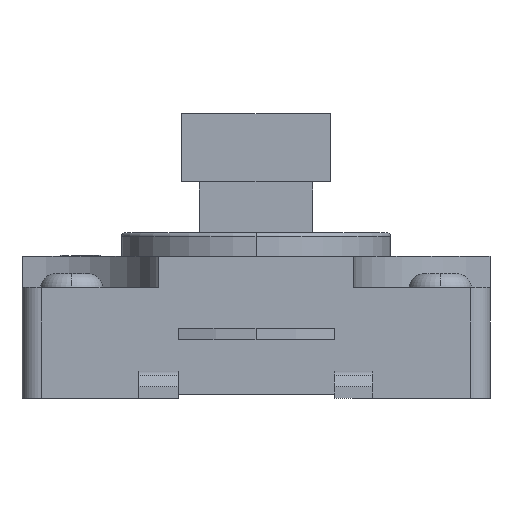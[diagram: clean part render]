
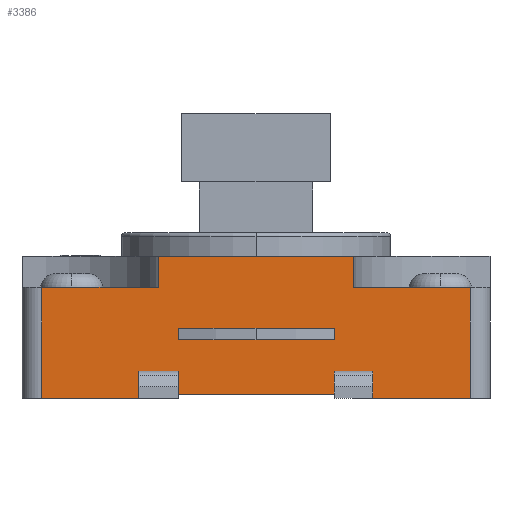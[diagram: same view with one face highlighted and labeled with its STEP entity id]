
A CAD part, left-side view. The second image highlights one B-rep face of the part: STEP entity #3386.
In plain terms, the highlighted planar face has unit normal (-1, 0, 0).
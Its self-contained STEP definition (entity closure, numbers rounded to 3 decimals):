
#75=DIRECTION('',(0.,1.,0.));
#76=VECTOR('',#75,5.);
#77=CARTESIAN_POINT('',(-75.489,35.27,1.95));
#78=LINE('',#77,#76);
#348=DIRECTION('',(0.,-1.,0.));
#349=VECTOR('',#348,3.);
#350=CARTESIAN_POINT('',(-75.489,35.27,1.15));
#351=LINE('',#350,#349);
#352=DIRECTION('',(0.,1.,0.));
#353=VECTOR('',#352,4.);
#354=CARTESIAN_POINT('',(-75.489,35.77,0.1));
#355=LINE('',#354,#353);
#356=DIRECTION('',(0.,-1.,0.));
#357=VECTOR('',#356,1.);
#358=CARTESIAN_POINT('',(-75.489,35.77,
-1.));
#359=LINE('',#358,#357);
#360=DIRECTION('',(0.,0.,1.));
#361=VECTOR('',#360,0.3);
#362=CARTESIAN_POINT('',(-75.489,35.77,-1.3));
#363=LINE('',#362,#361);
#364=DIRECTION('',(0.,-1.,0.));
#365=VECTOR('',#364,1.);
#366=CARTESIAN_POINT('',(-75.489,35.77,-1.3));
#367=LINE('',#366,#365);
#368=DIRECTION('',(0.,0.,-1.));
#369=VECTOR('',#368,0.3);
#370=CARTESIAN_POINT('',(-75.489,34.77,
-1.));
#371=LINE('',#370,#369);
#372=DIRECTION('',(0.,1.,0.));
#373=VECTOR('',#372,1.);
#374=CARTESIAN_POINT('',(-75.489,39.77,-1.3));
#375=LINE('',#374,#373);
#376=DIRECTION('',(0.,0.,-1.));
#377=VECTOR('',#376,0.3);
#378=CARTESIAN_POINT('',(-75.489,39.77,
-1.));
#379=LINE('',#378,#377);
#380=DIRECTION('',(0.,1.,0.));
#381=VECTOR('',#380,1.);
#382=CARTESIAN_POINT('',(-75.489,39.77,
-1.));
#383=LINE('',#382,#381);
#384=DIRECTION('',(0.,0.,-1.));
#385=VECTOR('',#384,0.3);
#386=CARTESIAN_POINT('',(-75.489,40.77,
-1.));
#387=LINE('',#386,#385);
#392=DIRECTION('',(0.,0.,1.));
#393=VECTOR('',#392,1.8);
#394=CARTESIAN_POINT('',(-75.489,32.27,-1.7));
#395=LINE('',#394,#393);
#396=DIRECTION('',(0.,0.,1.));
#397=VECTOR('',#396,1.05);
#398=CARTESIAN_POINT('',(-75.489,32.27,0.1));
#399=LINE('',#398,#397);
#580=DIRECTION('',(0.,1.,0.));
#581=VECTOR('',#580,4.);
#582=CARTESIAN_POINT('',(-75.489,35.77,-0.2));
#583=LINE('',#582,#581);
#611=DIRECTION('',(0.,0.,-1.));
#612=VECTOR('',#611,0.3);
#613=CARTESIAN_POINT('',(-75.489,35.77,0.1));
#614=LINE('',#613,#612);
#627=DIRECTION('',(0.,0.,1.));
#628=VECTOR('',#627,0.3);
#629=CARTESIAN_POINT('',(-75.489,39.77,-0.2));
#630=LINE('',#629,#628);
#708=DIRECTION('',(0.,0.,-1.));
#709=VECTOR('',#708,1.05);
#710=CARTESIAN_POINT('',(-75.489,43.27,1.15));
#711=LINE('',#710,#709);
#712=DIRECTION('',(0.,0.,-1.));
#713=VECTOR('',#712,1.8);
#714=CARTESIAN_POINT('',(-75.489,43.27,0.1));
#715=LINE('',#714,#713);
#733=DIRECTION('',(0.,-1.,0.));
#734=VECTOR('',#733,3.);
#735=CARTESIAN_POINT('',(-75.489,43.27,-1.7));
#736=LINE('',#735,#734);
#794=DIRECTION('',(0.,0.,1.));
#795=VECTOR('',#794,0.1);
#796=CARTESIAN_POINT('',(-75.489,40.27,-1.7));
#797=LINE('',#796,#795);
#810=DIRECTION('',(0.,-1.,0.));
#811=VECTOR('',#810,5.);
#812=CARTESIAN_POINT('',(-75.489,40.27,-1.6));
#813=LINE('',#812,#811);
#822=DIRECTION('',(0.,0.,-1.));
#823=VECTOR('',#822,0.1);
#824=CARTESIAN_POINT('',(-75.489,35.27,-1.6));
#825=LINE('',#824,#823);
#834=DIRECTION('',(0.,-1.,0.));
#835=VECTOR('',#834,3.);
#836=CARTESIAN_POINT('',(-75.489,35.27,-1.7));
#837=LINE('',#836,#835);
#901=DIRECTION('',(0.,1.,0.));
#902=VECTOR('',#901,3.);
#903=CARTESIAN_POINT('',(-75.489,40.27,1.15));
#904=LINE('',#903,#902);
#920=DIRECTION('',(0.,0.,-1.));
#921=VECTOR('',#920,0.8);
#922=CARTESIAN_POINT('',(-75.489,40.27,1.95));
#923=LINE('',#922,#921);
#1752=DIRECTION('',(0.,0.,1.));
#1753=VECTOR('',#1752,0.8);
#1754=CARTESIAN_POINT('',(-75.489,35.27,1.15));
#1755=LINE('',#1754,#1753);
#2347=CARTESIAN_POINT('',(-75.489,35.27,1.15));
#2348=VERTEX_POINT('',#2347);
#2349=CARTESIAN_POINT('',(-75.489,32.27,1.15));
#2350=VERTEX_POINT('',#2349);
#2351=CARTESIAN_POINT('',(-75.489,40.27,1.15));
#2352=CARTESIAN_POINT('',(-75.489,43.27,1.15));
#2353=VERTEX_POINT('',#2351);
#2354=VERTEX_POINT('',#2352);
#2375=CARTESIAN_POINT('',(-75.489,35.27,1.95));
#2376=CARTESIAN_POINT('',(-75.489,40.27,1.95));
#2377=VERTEX_POINT('',#2375);
#2378=VERTEX_POINT('',#2376);
#2391=CARTESIAN_POINT('',(-75.489,35.77,-0.2));
#2392=CARTESIAN_POINT('',(-75.489,39.77,-0.2));
#2393=VERTEX_POINT('',#2391);
#2394=VERTEX_POINT('',#2392);
#2395=CARTESIAN_POINT('',(-75.489,40.27,-1.6));
#2396=CARTESIAN_POINT('',(-75.489,35.27,-1.6));
#2397=VERTEX_POINT('',#2395);
#2398=VERTEX_POINT('',#2396);
#2399=CARTESIAN_POINT('',(-75.489,40.27,-1.7));
#2400=VERTEX_POINT('',#2399);
#2431=CARTESIAN_POINT('',(-75.489,43.27,-1.7));
#2432=VERTEX_POINT('',#2431);
#2441=CARTESIAN_POINT('',(-75.489,35.27,-1.7));
#2442=VERTEX_POINT('',#2441);
#2445=CARTESIAN_POINT('',(-75.489,32.27,-1.7));
#2446=VERTEX_POINT('',#2445);
#2827=CARTESIAN_POINT('',(-75.489,35.77,
0.1));
#2829=VERTEX_POINT('',#2827);
#2843=CARTESIAN_POINT('',(-75.489,39.77,
0.1));
#2845=VERTEX_POINT('',#2843);
#2881=CARTESIAN_POINT('',(-75.489,43.27,
0.1));
#2882=VERTEX_POINT('',#2881);
#2891=CARTESIAN_POINT('',(-75.489,32.27,
0.1));
#2892=VERTEX_POINT('',#2891);
#2895=CARTESIAN_POINT('',(-75.489,35.77,
-1.));
#2896=CARTESIAN_POINT('',(-75.489,34.77,
-1.));
#2897=VERTEX_POINT('',#2895);
#2898=VERTEX_POINT('',#2896);
#2899=CARTESIAN_POINT('',(-75.489,35.77,-1.3));
#2900=CARTESIAN_POINT('',(-75.489,34.77,-1.3));
#2901=VERTEX_POINT('',#2899);
#2902=VERTEX_POINT('',#2900);
#2911=CARTESIAN_POINT('',(-75.489,39.77,-1.3));
#2912=CARTESIAN_POINT('',(-75.489,40.77,-1.3));
#2913=VERTEX_POINT('',#2911);
#2914=VERTEX_POINT('',#2912);
#2915=CARTESIAN_POINT('',(-75.489,40.77,
-1.));
#2916=VERTEX_POINT('',#2915);
#2917=CARTESIAN_POINT('',(-75.489,39.77,
-1.));
#2918=VERTEX_POINT('',#2917);
#3322=CARTESIAN_POINT('',(-75.489,37.77,1.025));
#3323=DIRECTION('',(1.,0.,0.));
#3324=DIRECTION('',(0.,-1.,0.));
#3325=AXIS2_PLACEMENT_3D('',#3322,#3323,#3324);
#3326=PLANE('',#3325);
#3328=ORIENTED_EDGE('',*,*,#3327,.F.);
#3330=ORIENTED_EDGE('',*,*,#3329,.F.);
#3332=ORIENTED_EDGE('',*,*,#3331,.F.);
#3334=ORIENTED_EDGE('',*,*,#3333,.F.);
#3336=ORIENTED_EDGE('',*,*,#3335,.F.);
#3338=ORIENTED_EDGE('',*,*,#3337,.F.);
#3340=ORIENTED_EDGE('',*,*,#3339,.F.);
#3342=ORIENTED_EDGE('',*,*,#3341,.F.);
#3344=ORIENTED_EDGE('',*,*,#3343,.F.);
#3346=ORIENTED_EDGE('',*,*,#3345,.F.);
#3348=ORIENTED_EDGE('',*,*,#3347,.F.);
#3349=ORIENTED_EDGE('',*,*,#3181,.F.);
#3351=ORIENTED_EDGE('',*,*,#3350,.F.);
#3353=ORIENTED_EDGE('',*,*,#3352,.T.);
#3354=EDGE_LOOP('',(#3328,#3330,#3332,#3334,#3336,#3338,#3340,#3342,#3344,#3346,
#3348,#3349,#3351,#3353));
#3355=FACE_OUTER_BOUND('',#3354,.F.);
#3357=ORIENTED_EDGE('',*,*,#3356,.T.);
#3359=ORIENTED_EDGE('',*,*,#3358,.F.);
#3361=ORIENTED_EDGE('',*,*,#3360,.F.);
#3363=ORIENTED_EDGE('',*,*,#3362,.F.);
#3364=EDGE_LOOP('',(#3357,#3359,#3361,#3363));
#3365=FACE_BOUND('',#3364,.F.);
#3367=ORIENTED_EDGE('',*,*,#3366,.F.);
#3369=ORIENTED_EDGE('',*,*,#3368,.F.);
#3371=ORIENTED_EDGE('',*,*,#3370,.T.);
#3373=ORIENTED_EDGE('',*,*,#3372,.F.);
#3374=EDGE_LOOP('',(#3367,#3369,#3371,#3373));
#3375=FACE_BOUND('',#3374,.F.);
#3377=ORIENTED_EDGE('',*,*,#3376,.F.);
#3379=ORIENTED_EDGE('',*,*,#3378,.F.);
#3381=ORIENTED_EDGE('',*,*,#3380,.T.);
#3383=ORIENTED_EDGE('',*,*,#3382,.T.);
#3384=EDGE_LOOP('',(#3377,#3379,#3381,#3383));
#3385=FACE_BOUND('',#3384,.F.);
#3181=EDGE_CURVE('',#2377,#2378,#78,.T.);
#3327=EDGE_CURVE('',#2892,#2350,#399,.T.);
#3329=EDGE_CURVE('',#2446,#2892,#395,.T.);
#3331=EDGE_CURVE('',#2442,#2446,#837,.T.);
#3333=EDGE_CURVE('',#2398,#2442,#825,.T.);
#3335=EDGE_CURVE('',#2397,#2398,#813,.T.);
#3337=EDGE_CURVE('',#2400,#2397,#797,.T.);
#3339=EDGE_CURVE('',#2432,#2400,#736,.T.);
#3341=EDGE_CURVE('',#2882,#2432,#715,.T.);
#3343=EDGE_CURVE('',#2354,#2882,#711,.T.);
#3345=EDGE_CURVE('',#2353,#2354,#904,.T.);
#3347=EDGE_CURVE('',#2378,#2353,#923,.T.);
#3350=EDGE_CURVE('',#2348,#2377,#1755,.T.);
#3352=EDGE_CURVE('',#2348,#2350,#351,.T.);
#3356=EDGE_CURVE('',#2829,#2845,#355,.T.);
#3358=EDGE_CURVE('',#2394,#2845,#630,.T.);
#3360=EDGE_CURVE('',#2393,#2394,#583,.T.);
#3362=EDGE_CURVE('',#2829,#2393,#614,.T.);
#3366=EDGE_CURVE('',#2897,#2898,#359,.T.);
#3368=EDGE_CURVE('',#2901,#2897,#363,.T.);
#3370=EDGE_CURVE('',#2901,#2902,#367,.T.);
#3372=EDGE_CURVE('',#2898,#2902,#371,.T.);
#3376=EDGE_CURVE('',#2913,#2914,#375,.T.);
#3378=EDGE_CURVE('',#2918,#2913,#379,.T.);
#3380=EDGE_CURVE('',#2918,#2916,#383,.T.);
#3382=EDGE_CURVE('',#2916,#2914,#387,.T.);
#3386=ADVANCED_FACE('',(#3355,#3365,#3375,#3385),#3326,.F.);
